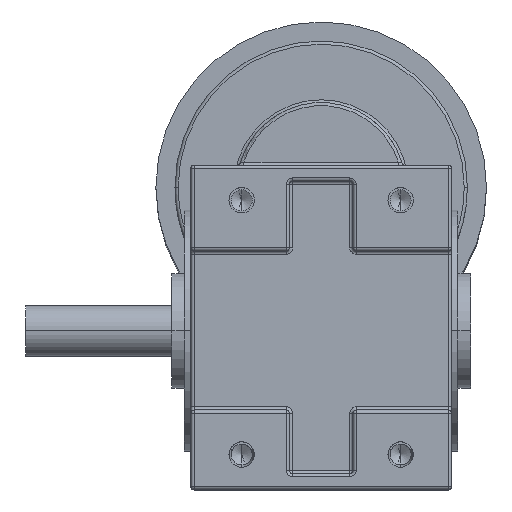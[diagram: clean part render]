
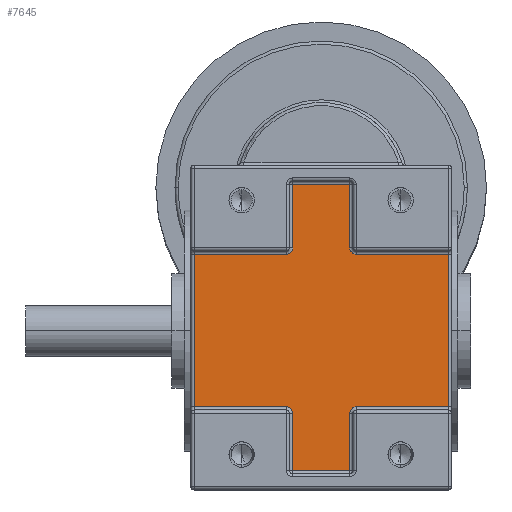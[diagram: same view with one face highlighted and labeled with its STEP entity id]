
A CAD part, top view. The second image highlights one B-rep face of the part: STEP entity #7645.
In plain terms, the highlighted planar face has unit normal (0, 0, 1).
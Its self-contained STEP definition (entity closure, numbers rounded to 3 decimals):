
#1858 = CARTESIAN_POINT ( 'NONE',  ( 3.947, -0.277, 49.5 ) ) ;
#1859 = LINE ( 'NONE', #1858, #1926 ) ;
#1860 = CARTESIAN_POINT ( 'NONE',  ( 3.947, -9.897, 49.5 ) ) ;
#1861 = DIRECTION ( 'NONE',  ( 1., 0., 0. ) ) ;
#1862 = DIRECTION ( 'NONE',  ( 0., 0., 1. ) ) ;
#1863 = CARTESIAN_POINT ( 'NONE',  ( 4.947, -9.897, 49.5 ) ) ;
#1864 = AXIS2_PLACEMENT_3D ( 'NONE', #1863, #1862, #1861 ) ;
#1865 = CIRCLE ( 'NONE', #1864, 1. ) ;
#1866 = CARTESIAN_POINT ( 'NONE',  ( 3.947, -44.897, 49.5 ) ) ;
#1867 = CARTESIAN_POINT ( 'NONE',  ( -5.053, -44.897, 49.5 ) ) ;
#1868 = DIRECTION ( 'NONE',  ( 0., -1., 0. ) ) ;
#1869 = VECTOR ( 'NONE', #1868, 1000. ) ;
#1870 = CARTESIAN_POINT ( 'NONE',  ( -5.053, -0.277, 49.5 ) ) ;
#1871 = LINE ( 'NONE', #1870, #1869 ) ;
#1872 = CARTESIAN_POINT ( 'NONE',  ( -5.053, -35.897, 49.5 ) ) ;
#1873 = DIRECTION ( 'NONE',  ( 1., 0., 0. ) ) ;
#1874 = DIRECTION ( 'NONE',  ( 0., 0., 1. ) ) ;
#1875 = CARTESIAN_POINT ( 'NONE',  ( -6.053, -35.897, 49.5 ) ) ;
#1876 = AXIS2_PLACEMENT_3D ( 'NONE', #1875, #1874, #1873 ) ;
#1890 = CIRCLE ( 'NONE', #1876, 1. ) ;
#1891 = CARTESIAN_POINT ( 'NONE',  ( -6.053, -34.897, 49.5 ) ) ;
#1894 = CARTESIAN_POINT ( 'NONE',  ( 3.947, -35.897, 49.5 ) ) ;
#1895 = CARTESIAN_POINT ( 'NONE',  ( 4.947, -34.897, 49.5 ) ) ;
#1896 = DIRECTION ( 'NONE',  ( 1., 0., 0. ) ) ;
#1897 = DIRECTION ( 'NONE',  ( 0., 0., 1. ) ) ;
#1898 = CARTESIAN_POINT ( 'NONE',  ( 4.947, -35.897, 49.5 ) ) ;
#1899 = AXIS2_PLACEMENT_3D ( 'NONE', #1898, #1897, #1896 ) ;
#1900 = CIRCLE ( 'NONE', #1899, 1. ) ;
#1901 = DIRECTION ( 'NONE',  ( 1., 0., 0. ) ) ;
#1902 = DIRECTION ( 'NONE',  ( 0., 0., 1. ) ) ;
#1903 = CARTESIAN_POINT ( 'NONE',  ( -0.553, -0.277, 49.5 ) ) ;
#1904 = AXIS2_PLACEMENT_3D ( 'NONE', #1903, #1902, #1901 ) ;
#1905 = PLANE ( 'NONE',  #1904 ) ;
#1906 = FACE_OUTER_BOUND ( 'NONE', #7578, .T. ) ;
#1907 = CARTESIAN_POINT ( 'NONE',  ( -20.553, -10.897, 49.5 ) ) ;
#1908 = CARTESIAN_POINT ( 'NONE',  ( -6.053, -10.897, 49.5 ) ) ;
#1909 = DIRECTION ( 'NONE',  ( 1., 0., 0. ) ) ;
#1910 = DIRECTION ( 'NONE',  ( 0., 0., 1. ) ) ;
#1911 = CARTESIAN_POINT ( 'NONE',  ( -6.053, -9.897, 49.5 ) ) ;
#1912 = AXIS2_PLACEMENT_3D ( 'NONE', #1911, #1910, #1909 ) ;
#1913 = CIRCLE ( 'NONE', #1912, 1. ) ;
#1914 = CARTESIAN_POINT ( 'NONE',  ( -5.053, -9.897, 49.5 ) ) ;
#1915 = DIRECTION ( 'NONE',  ( 0., -1., 0. ) ) ;
#1916 = VECTOR ( 'NONE', #1915, 1000. ) ;
#1917 = CARTESIAN_POINT ( 'NONE',  ( -5.053, -0.277, 49.5 ) ) ;
#1918 = LINE ( 'NONE', #1917, #1916 ) ;
#1919 = CARTESIAN_POINT ( 'NONE',  ( -5.053, 0.103, 49.5 ) ) ;
#1920 = DIRECTION ( 'NONE',  ( -1., 0., 0. ) ) ;
#1921 = VECTOR ( 'NONE', #1920, 1000. ) ;
#1922 = CARTESIAN_POINT ( 'NONE',  ( -0.553, 0.103, 49.5 ) ) ;
#1923 = LINE ( 'NONE', #1922, #1921 ) ;
#1924 = CARTESIAN_POINT ( 'NONE',  ( 3.947, 0.103, 49.5 ) ) ;
#1925 = DIRECTION ( 'NONE',  ( 0., 1., 0. ) ) ;
#1926 = VECTOR ( 'NONE', #1925, 1000. ) ;
#1942 = CARTESIAN_POINT ( 'NONE',  ( 4.947, -10.897, 49.5 ) ) ;
#1943 = DIRECTION ( 'NONE',  ( -1., 0., 0. ) ) ;
#1944 = VECTOR ( 'NONE', #1943, 1000. ) ;
#1945 = CARTESIAN_POINT ( 'NONE',  ( -0.553, -10.897, 49.5 ) ) ;
#1946 = LINE ( 'NONE', #1945, #1944 ) ;
#1947 = CARTESIAN_POINT ( 'NONE',  ( 19.447, -10.897, 49.5 ) ) ;
#1948 = DIRECTION ( 'NONE',  ( 0., 1., 0. ) ) ;
#1949 = VECTOR ( 'NONE', #1948, 1000. ) ;
#1950 = CARTESIAN_POINT ( 'NONE',  ( 19.447, -0.277, 49.5 ) ) ;
#1951 = LINE ( 'NONE', #1950, #1949 ) ;
#1952 = CARTESIAN_POINT ( 'NONE',  ( 19.447, -34.897, 49.5 ) ) ;
#1953 = DIRECTION ( 'NONE',  ( 1., 0., 0. ) ) ;
#1954 = VECTOR ( 'NONE', #1953, 1000. ) ;
#1955 = CARTESIAN_POINT ( 'NONE',  ( -0.553, -34.897, 49.5 ) ) ;
#1956 = LINE ( 'NONE', #1955, #1954 ) ;
#1957 = LINE ( 'NONE', #2020, #2019 ) ;
#1958 = DIRECTION ( 'NONE',  ( 1., 0., 0. ) ) ;
#1959 = VECTOR ( 'NONE', #1958, 1000. ) ;
#1960 = CARTESIAN_POINT ( 'NONE',  ( -0.553, -44.897, 49.5 ) ) ;
#1961 = LINE ( 'NONE', #1960, #1959 ) ;
#1990 = CARTESIAN_POINT ( 'NONE',  ( -0.553, -34.897, 49.5 ) ) ;
#1991 = LINE ( 'NONE', #1990, #2053 ) ;
#1992 = CARTESIAN_POINT ( 'NONE',  ( -20.553, -34.897, 49.5 ) ) ;
#1993 = DIRECTION ( 'NONE',  ( 0., -1., 0. ) ) ;
#1994 = VECTOR ( 'NONE', #1993, 1000. ) ;
#1995 = CARTESIAN_POINT ( 'NONE',  ( -20.553, -35.397, 49.5 ) ) ;
#1996 = LINE ( 'NONE', #1995, #1994 ) ;
#1997 = DIRECTION ( 'NONE',  ( -1., 0., 0. ) ) ;
#1998 = VECTOR ( 'NONE', #1997, 1000. ) ;
#1999 = CARTESIAN_POINT ( 'NONE',  ( -0.553, -10.897, 49.5 ) ) ;
#2000 = LINE ( 'NONE', #1999, #1998 ) ;
#2018 = DIRECTION ( 'NONE',  ( 0., 1., 0. ) ) ;
#2019 = VECTOR ( 'NONE', #2018, 1000. ) ;
#2020 = CARTESIAN_POINT ( 'NONE',  ( 3.947, -0.277, 49.5 ) ) ;
#2052 = DIRECTION ( 'NONE',  ( 1., 0., 0. ) ) ;
#2053 = VECTOR ( 'NONE', #2052, 1000. ) ;
#7578 = EDGE_LOOP ( 'NONE', ( #7646, #7650, #7653, #7656, #7659, #7632, #7635, #7638, #7641, #7700, #7702, #7705, #7623, #7626, #7687, #7689 ) ) ;
#7622 = VERTEX_POINT ( 'NONE', #1891 ) ;
#7623 = ORIENTED_EDGE ( 'NONE', *, *, #7624, .F. ) ;
#7624 = EDGE_CURVE ( 'NONE', #7625, #7622, #1890, .T. ) ;
#7625 = VERTEX_POINT ( 'NONE', #1872 ) ;
#7626 = ORIENTED_EDGE ( 'NONE', *, *, #7627, .T. ) ;
#7627 = EDGE_CURVE ( 'NONE', #7625, #7628, #1871, .T. ) ;
#7628 = VERTEX_POINT ( 'NONE', #1867 ) ;
#7629 = VERTEX_POINT ( 'NONE', #1866 ) ;
#7630 = EDGE_CURVE ( 'NONE', #7631, #7658, #1865, .T. ) ;
#7631 = VERTEX_POINT ( 'NONE', #1860 ) ;
#7632 = ORIENTED_EDGE ( 'NONE', *, *, #7633, .T. ) ;
#7633 = EDGE_CURVE ( 'NONE', #7631, #7634, #1859, .T. ) ;
#7634 = VERTEX_POINT ( 'NONE', #1924 ) ;
#7635 = ORIENTED_EDGE ( 'NONE', *, *, #7636, .T. ) ;
#7636 = EDGE_CURVE ( 'NONE', #7634, #7637, #1923, .T. ) ;
#7637 = VERTEX_POINT ( 'NONE', #1919 ) ;
#7638 = ORIENTED_EDGE ( 'NONE', *, *, #7639, .T. ) ;
#7639 = EDGE_CURVE ( 'NONE', #7637, #7640, #1918, .T. ) ;
#7640 = VERTEX_POINT ( 'NONE', #1914 ) ;
#7641 = ORIENTED_EDGE ( 'NONE', *, *, #7642, .F. ) ;
#7642 = EDGE_CURVE ( 'NONE', #7643, #7640, #1913, .T. ) ;
#7643 = VERTEX_POINT ( 'NONE', #1908 ) ;
#7644 = VERTEX_POINT ( 'NONE', #1907 ) ;
#7645 = ADVANCED_FACE ( 'NONE', ( #1906 ), #1905, .T. ) ;
#7646 = ORIENTED_EDGE ( 'NONE', *, *, #7647, .F. ) ;
#7647 = EDGE_CURVE ( 'NONE', #7648, #7649, #1900, .T. ) ;
#7648 = VERTEX_POINT ( 'NONE', #1895 ) ;
#7649 = VERTEX_POINT ( 'NONE', #1894 ) ;
#7650 = ORIENTED_EDGE ( 'NONE', *, *, #7651, .T. ) ;
#7651 = EDGE_CURVE ( 'NONE', #7648, #7652, #1956, .T. ) ;
#7652 = VERTEX_POINT ( 'NONE', #1952 ) ;
#7653 = ORIENTED_EDGE ( 'NONE', *, *, #7654, .T. ) ;
#7654 = EDGE_CURVE ( 'NONE', #7652, #7655, #1951, .T. ) ;
#7655 = VERTEX_POINT ( 'NONE', #1947 ) ;
#7656 = ORIENTED_EDGE ( 'NONE', *, *, #7657, .T. ) ;
#7657 = EDGE_CURVE ( 'NONE', #7655, #7658, #1946, .T. ) ;
#7658 = VERTEX_POINT ( 'NONE', #1942 ) ;
#7659 = ORIENTED_EDGE ( 'NONE', *, *, #7630, .F. ) ;
#7687 = ORIENTED_EDGE ( 'NONE', *, *, #7688, .T. ) ;
#7688 = EDGE_CURVE ( 'NONE', #7628, #7629, #1961, .T. ) ;
#7689 = ORIENTED_EDGE ( 'NONE', *, *, #7690, .T. ) ;
#7690 = EDGE_CURVE ( 'NONE', #7629, #7649, #1957, .T. ) ;
#7700 = ORIENTED_EDGE ( 'NONE', *, *, #7701, .T. ) ;
#7701 = EDGE_CURVE ( 'NONE', #7643, #7644, #2000, .T. ) ;
#7702 = ORIENTED_EDGE ( 'NONE', *, *, #7703, .T. ) ;
#7703 = EDGE_CURVE ( 'NONE', #7644, #7704, #1996, .T. ) ;
#7704 = VERTEX_POINT ( 'NONE', #1992 ) ;
#7705 = ORIENTED_EDGE ( 'NONE', *, *, #7706, .T. ) ;
#7706 = EDGE_CURVE ( 'NONE', #7704, #7622, #1991, .T. ) ;
